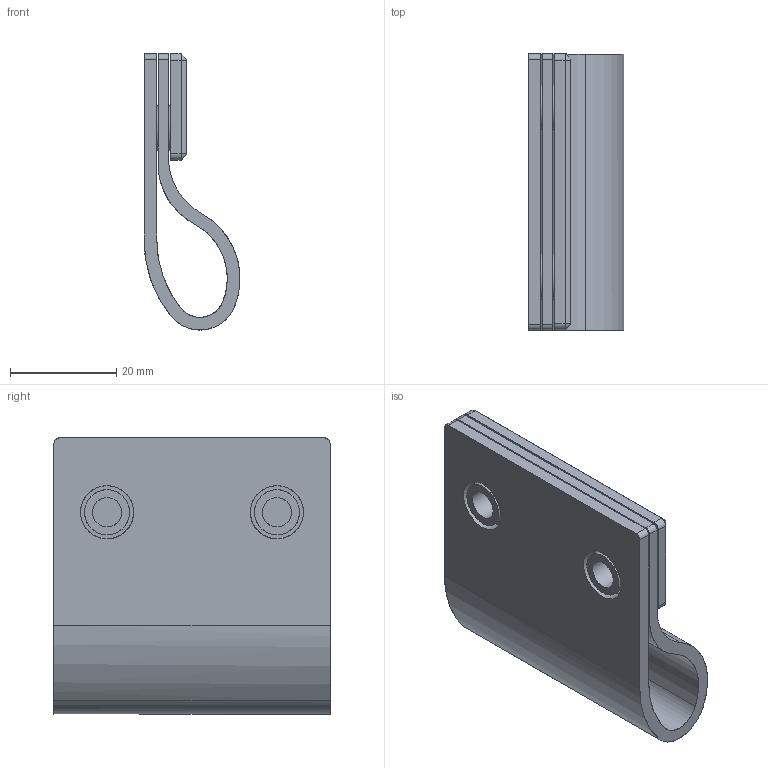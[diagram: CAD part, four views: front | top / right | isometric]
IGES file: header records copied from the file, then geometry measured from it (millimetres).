
Start section: C
Global section: file name: 8347-52.igs; native system: By Siemens PLM Incorporated; preprocessor: XPlus GENERIC/IGES 16.0.42; author: Author; organization: Title; date: 20230815.123308; units: millimetre
Bounding box: 18.01 x 52 x 52.01 mm (x, y, z)
Surface area: 15111.1 mm2 (no closed solid volume)
Topology: 0 solids, 0 shells, 50 faces, 268 edges, 268 vertices
Faces by surface type: bspline 50
